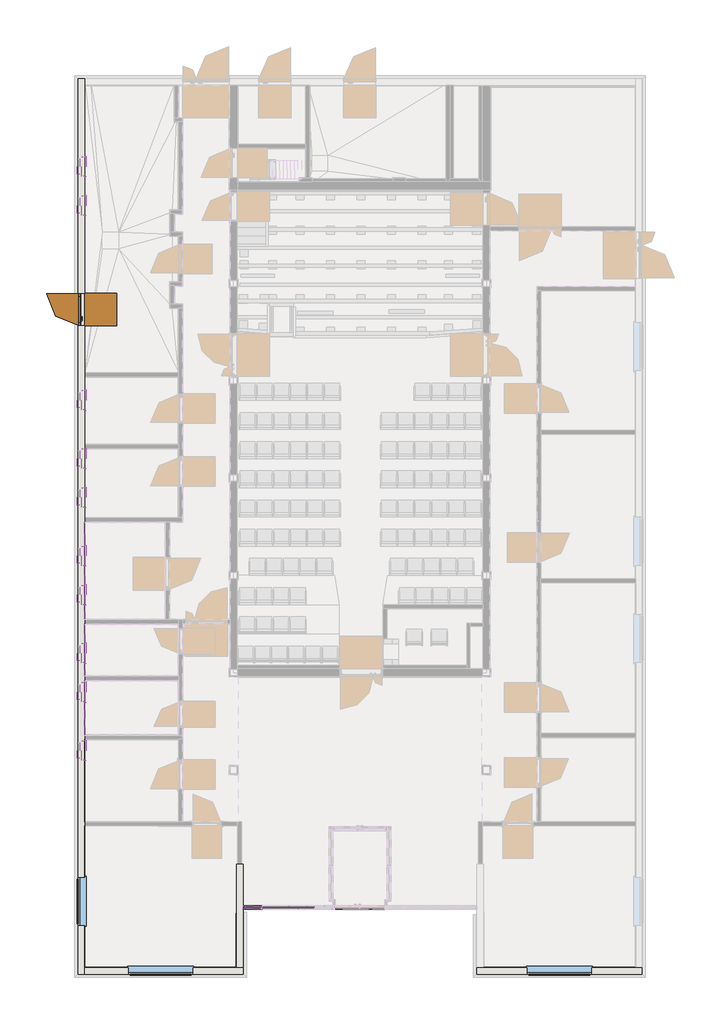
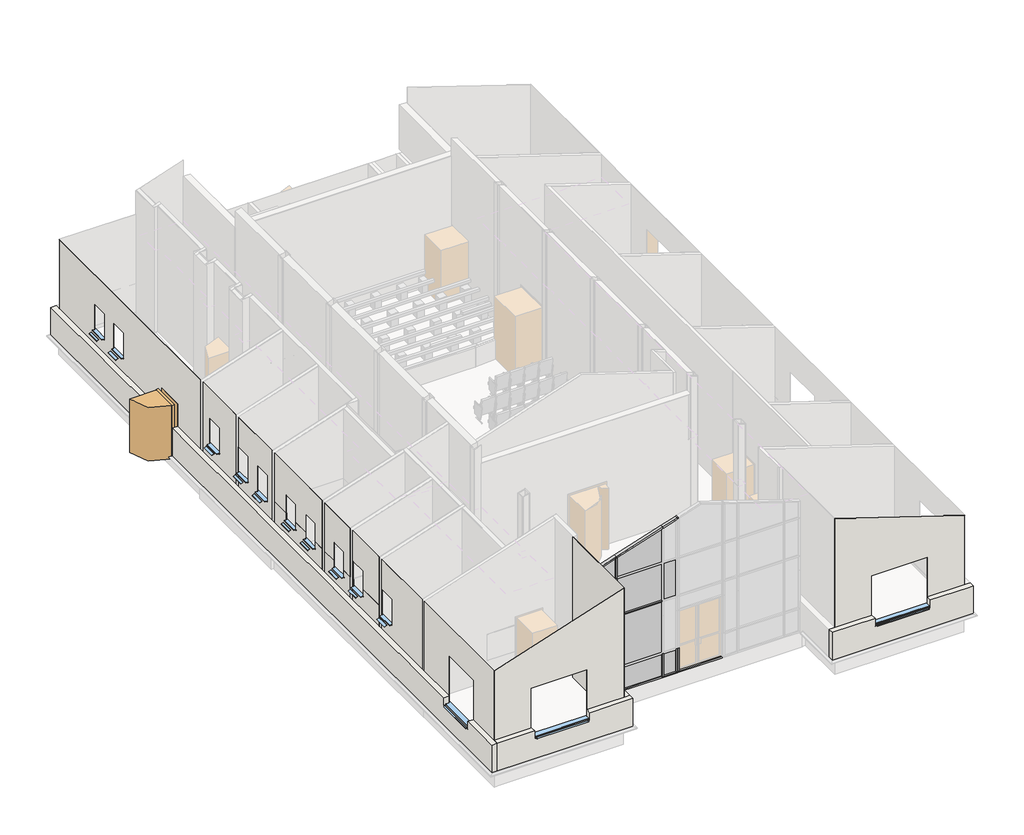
# One storey, part 1 of 12: 26 members, 26 windows, 22 walls, 10 plates, 1 door.
"""IFC4 building model written with IfcOpenShell, lengths in millimetres."""

from ifc_helpers import new_model, si_unit, frame, origin, place, context, project, spatial, polyline, outline, extrude, faceted_brep, transform, mapped, element, save
from components import door_b13809c9, member_8805ff32, member_8b1d7da7, member_3852d6f5, member_90e372af, member_bf5daf80, member_8b32100e, member_849f455b, member_9f80fade, member_032df59e, member_b2f30559, member_20a74649, member_61a6de6b, member_2769d897, member_3330f06f, member_29c79f2a, member_cc15da06, member_ada26568, member_79c3f76f, member_659f706c, member_5ccecf80, plate_3df24eb0, plate_244f3467, plate_40863914, plate_20cddcc4, plate_b7f66d03, plate_f58014f5, plate_ab8c2a42, plate_59a72077, plate_1786935c, plate_a43562b1, window_8f4e7b66, window_3b6728a6, window_ea214aab, window_dc4ac935, window_c86a886d, window_1c98182c

model = new_model("IFC4")

# Units and contexts
model_context = context("Model", 3, world=origin())
ifc_project = project(units=[si_unit("LENGTHUNIT", "METRE", prefix="MILLI")], contexts=[model_context])

# Site, building, storey
site = spatial("IfcSite", under=ifc_project)
building = spatial("IfcBuilding", under=site)
storey = spatial("IfcBuildingStorey", under=building, Name="Этаж 01", Elevation=0.0)

# Door
placement = place(None, origin())
door_shape = door_b13809c9(model_context)
element("IfcDoor", 1, ObjectType="Дверь_Стальная_Наружная_Однопольная_ГОСТ_31173-2016 : 1010 х 2070(h)_Л_Обычная_с Порогом", at=placement, inside=storey, context=model_context, shape_type="MappedRepresentation", body=[
    mapped(door_shape, transform((-200.0, 20194.9974866, 0.0), x_axis=(0.0, 1.0, 0.0), y_axis=(-1.0, 0.0, 0.0), z_axis=(0.0, 0.0, 1.0))),
])

# Members
member_shape = member_8805ff32(model_context)
element("IfcMember", 2, ObjectType="Прямоугольный импост : 50х120 мм", at=placement, inside=storey, context=model_context, shape_type="MappedRepresentation", body=[
    mapped(member_shape, transform((4850.0, 1760.3517467, 0.0), x_axis=(0.0, 0.0, -1.0), y_axis=(0.0, -1.0, 0.0), z_axis=(-1.0, 0.0, 0.0))),
])
member_2_shape = member_8b1d7da7(model_context)
element("IfcMember", 3, ObjectType="Прямоугольный импост : 50х120 мм", at=placement, inside=storey, context=model_context, shape_type="MappedRepresentation", body=[
    mapped(member_2_shape, transform((5360.0175397, 1760.3517467, 5206.9224188), x_axis=(-0.3090169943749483, 0.0, 0.9510565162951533), y_axis=(0.0, -1.0, 0.0), z_axis=(0.9510565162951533, 0.0, 0.3090169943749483))),
])
member_3_shape = member_3852d6f5(model_context)
element("IfcMember", 4, ObjectType="Прямоугольный импост : 50х120 мм", at=placement, inside=storey, context=model_context, shape_type="MappedRepresentation", body=[
    mapped(member_3_shape, transform((7040.0175397, 1760.3517467, 5752.7875085), x_axis=(-0.30901699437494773, 0.0, 0.9510565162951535), y_axis=(0.0, -1.0, 0.0), z_axis=(0.9510565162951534, 0.0, 0.3090169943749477))),
])
member_4_shape = member_90e372af(model_context)
element("IfcMember", 5, ObjectType="Прямоугольный импост : 50х120 мм", at=placement, inside=storey, context=model_context, shape_type="MappedRepresentation", body=[
    mapped(member_4_shape, transform((5335.0175397, 1760.3517467, 2925.0), x_axis=(0.0, 0.0, 1.0), y_axis=(0.0, -1.0, 0.0), z_axis=(1.0, 0.0, 0.0))),
])
element("IfcMember", 6, ObjectType="Прямоугольный импост : 50х120 мм", at=placement, inside=storey, context=model_context, shape_type="MappedRepresentation", body=[
    mapped(member_4_shape, transform((5335.0175397, 1760.3517467, 4375.0), x_axis=(0.0, 0.0, 1.0), y_axis=(0.0, -1.0, 0.0), z_axis=(1.0, 0.0, 0.0))),
])
element("IfcMember", 7, ObjectType="Прямоугольный импост : 50х120 мм", at=placement, inside=storey, context=model_context, shape_type="MappedRepresentation", body=[
    mapped(member_4_shape, transform((5335.0175397, 1760.3517467, 925.0), x_axis=(0.0, 0.0, 1.0), y_axis=(0.0, -1.0, 0.0), z_axis=(1.0, 0.0, 0.0))),
])
member_5_shape = member_bf5daf80(model_context)
element("IfcMember", 8, ObjectType="Прямоугольный импост : 50х120 мм", at=placement, inside=storey, context=model_context, shape_type="MappedRepresentation", body=[
    mapped(member_5_shape, transform((5360.0175397, 1760.3517467, 4375.0), x_axis=(1.0, 0.0, 0.0), y_axis=(0.0, -1.0, 0.0), z_axis=(0.0, 0.0, -1.0))),
])
member_6_shape = member_8b32100e(model_context)
element("IfcMember", 9, ObjectType="Прямоугольный импост : 50х120 мм", at=placement, inside=storey, context=model_context, shape_type="MappedRepresentation", body=[
    mapped(member_6_shape, transform((4800.0, 1760.3517467, 5024.9616899), x_axis=(-1.0, 0.0, 0.0), y_axis=(0.0, -1.0, 0.0), z_axis=(0.0, 0.0, 1.0))),
])
member_7_shape = member_849f455b(model_context)
element("IfcMember", 10, ObjectType="Прямоугольный импост : 50х120 мм", at=placement, inside=storey, context=model_context, shape_type="MappedRepresentation", body=[
    mapped(member_7_shape, transform((5360.0175397, 1760.3517467, 2925.0), x_axis=(1.0, 0.0, 0.0), y_axis=(0.0, -1.0, 0.0), z_axis=(0.0, 0.0, -1.0))),
])
member_8_shape = member_9f80fade(model_context)
element("IfcMember", 11, ObjectType="Прямоугольный импост : 50х120 мм", at=placement, inside=storey, context=model_context, shape_type="MappedRepresentation", body=[
    mapped(member_8_shape, transform((4800.0, 1760.3517467, 4375.0), x_axis=(-1.0, 0.0, 0.0), y_axis=(0.0, -1.0, 0.0), z_axis=(0.0, 0.0, 1.0))),
])
member_9_shape = member_032df59e(model_context)
element("IfcMember", 12, ObjectType="Прямоугольный импост : 50х120 мм", at=placement, inside=storey, context=model_context, shape_type="MappedRepresentation", body=[
    mapped(member_9_shape, transform((5360.0175397, 1760.3517467, 0.0), x_axis=(0.0, 0.0, -1.0), y_axis=(0.0, -1.0, 0.0), z_axis=(-1.0, 0.0, 0.0))),
])
member_10_shape = member_b2f30559(model_context)
element("IfcMember", 13, ObjectType="Прямоугольный импост : 50х120 мм", at=placement, inside=storey, context=model_context, shape_type="MappedRepresentation", body=[
    mapped(member_10_shape, transform((7065.0175397, 1760.3517467, 0.0), x_axis=(0.0, 0.0, -1.0), y_axis=(0.0, -1.0, 0.0), z_axis=(-1.0, 0.0, 0.0))),
])
member_11_shape = member_20a74649(model_context)
element("IfcMember", 14, ObjectType="Прямоугольный импост : 50х120 мм", at=placement, inside=storey, context=model_context, shape_type="MappedRepresentation", body=[
    mapped(member_11_shape, transform((7550.0175397, 1760.3517467, 5918.4965536), x_axis=(-0.30901699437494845, 0.0, 0.9510565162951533), y_axis=(0.0, -1.0, 0.0), z_axis=(0.9510565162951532, 0.0, 0.3090169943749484))),
])
member_12_shape = member_61a6de6b(model_context)
element("IfcMember", 15, ObjectType="Прямоугольный импост : 50х100 мм", at=placement, inside=storey, context=model_context, shape_type="MappedRepresentation", body=[
    mapped(member_12_shape, transform((7550.0175397, 1760.3517467, 0.0), x_axis=(0.0, 0.0, -1.0), y_axis=(0.0, -1.0, 0.0), z_axis=(-1.0, 0.0, 0.0))),
])
member_13_shape = member_2769d897(model_context)
element("IfcMember", 16, ObjectType="Прямоугольный импост : 50х120 мм", at=placement, inside=storey, context=model_context, shape_type="MappedRepresentation", body=[
    mapped(member_13_shape, transform((7600.0175397, 1760.3517467, 0.0), x_axis=(0.0, 0.0, -1.0), y_axis=(0.0, -1.0, 0.0), z_axis=(-1.0, 0.0, 0.0))),
])
member_14_shape = member_3330f06f(model_context)
element("IfcMember", 17, ObjectType="Прямоугольный импост : 50х120 мм", at=placement, inside=storey, context=model_context, shape_type="MappedRepresentation", body=[
    mapped(member_14_shape, transform((7015.0175397, 1760.3517467, 2925.0), x_axis=(0.0, 0.0, 1.0), y_axis=(0.0, -1.0, 0.0), z_axis=(1.0, 0.0, 0.0))),
])
member_15_shape = member_29c79f2a(model_context)
element("IfcMember", 18, ObjectType="Прямоугольный импост : 50х120 мм", at=placement, inside=storey, context=model_context, shape_type="MappedRepresentation", body=[
    mapped(member_15_shape, transform((5360.0175397, 1760.3517467, 50.0), x_axis=(1.0, 0.0, 0.0), y_axis=(0.0, -1.0, 0.0), z_axis=(0.0, 0.0, -1.0))),
])
element("IfcMember", 19, ObjectType="Прямоугольный импост : 50х120 мм", at=placement, inside=storey, context=model_context, shape_type="MappedRepresentation", body=[
    mapped(member_15_shape, transform((7550.0175397, 1760.3517467, 50.0), x_axis=(1.0, 0.0, 0.0), y_axis=(0.0, -1.0, 0.0), z_axis=(0.0, 0.0, -1.0))),
])
element("IfcMember", 20, ObjectType="Прямоугольный импост : 50х120 мм", at=placement, inside=storey, context=model_context, shape_type="MappedRepresentation", body=[
    mapped(member_15_shape, transform((7600.0175397, 1760.3517467, 50.0), x_axis=(1.0, 0.0, 0.0), y_axis=(0.0, -1.0, 0.0), z_axis=(0.0, 0.0, -1.0))),
])
member_16_shape = member_cc15da06(model_context)
element("IfcMember", 21, ObjectType="Прямоугольный импост : 50х120 мм", at=placement, inside=storey, context=model_context, shape_type="MappedRepresentation", body=[
    mapped(member_16_shape, transform((7040.0175397, 1760.3517467, 0.0), x_axis=(1.0, 0.0, 0.0), y_axis=(0.0, -1.0, 0.0), z_axis=(0.0, 0.0, -1.0))),
])
member_17_shape = member_ada26568(model_context)
element("IfcMember", 22, ObjectType="Прямоугольный импост : 50х120 мм", at=placement, inside=storey, context=model_context, shape_type="MappedRepresentation", body=[
    mapped(member_17_shape, transform((4800.0, 1760.3517467, 925.0), x_axis=(-1.0, 0.0, 0.0), y_axis=(0.0, -1.0, 0.0), z_axis=(0.0, 0.0, 1.0))),
])
element("IfcMember", 23, ObjectType="Прямоугольный импост : 50х120 мм", at=placement, inside=storey, context=model_context, shape_type="MappedRepresentation", body=[
    mapped(member_7_shape, transform((5360.0175397, 1760.3517467, 925.0), x_axis=(1.0, 0.0, 0.0), y_axis=(0.0, -1.0, 0.0), z_axis=(0.0, 0.0, -1.0))),
])
member_18_shape = member_79c3f76f(model_context)
element("IfcMember", 24, ObjectType="Прямоугольный импост : 50х120 мм", at=placement, inside=storey, context=model_context, shape_type="MappedRepresentation", body=[
    mapped(member_18_shape, transform((5360.0175397, 1760.3517467, 2375.0), x_axis=(1.0, 0.0, 0.0), y_axis=(0.0, -1.0, 0.0), z_axis=(0.0, 0.0, -1.0))),
])
member_19_shape = member_659f706c(model_context)
element("IfcMember", 25, ObjectType="Прямоугольный импост : 50х120 мм", at=placement, inside=storey, context=model_context, shape_type="MappedRepresentation", body=[
    mapped(member_19_shape, transform((4800.0, 1760.3517467, 2925.0), x_axis=(-1.0, 0.0, 0.0), y_axis=(0.0, -1.0, 0.0), z_axis=(0.0, 0.0, 1.0))),
])
element("IfcMember", 26, ObjectType="Прямоугольный импост : 50х120 мм", at=placement, inside=storey, context=model_context, shape_type="MappedRepresentation", body=[
    mapped(member_8_shape, transform((4800.0, 1760.3517467, 2375.0), x_axis=(-1.0, 0.0, 0.0), y_axis=(0.0, -1.0, 0.0), z_axis=(0.0, 0.0, 1.0))),
])
member_20_shape = member_5ccecf80(model_context)
element("IfcMember", 27, ObjectType="Прямоугольный импост : 50х120 мм", at=placement, inside=storey, context=model_context, shape_type="MappedRepresentation", body=[
    mapped(member_20_shape, transform((7600.0175397, 1760.3517467, 5934.7425384), x_axis=(-0.30901699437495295, 0.0, 0.9510565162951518), y_axis=(0.0, -1.0, 0.0), z_axis=(0.9510565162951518, 0.0, 0.30901699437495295))),
])

# Plates
plate_shape = plate_3df24eb0(model_context)
element("IfcPlate", 28, ObjectType="Системная панель : ADSK_Cтеклопакет_25", at=placement, inside=storey, context=model_context, shape_type="MappedRepresentation", body=[
    mapped(plate_shape, transform((5092.5087699, 1760.3517467, 50.0), x_axis=(1.0, 0.0, 0.0), y_axis=(0.0, 1.0, 0.0), z_axis=(0.0, 0.0, 1.0))),
])
plate_2_shape = plate_244f3467(model_context)
element("IfcPlate", 29, ObjectType="Системная панель : ADSK_Cтеклопакет_25 мм", at=placement, inside=storey, context=model_context, shape_type="MappedRepresentation", body=[
    mapped(plate_2_shape, transform((5092.5087699, 1760.3517467, 2950.0), x_axis=(1.0, 0.0, 0.0), y_axis=(0.0, 1.0, 0.0), z_axis=(0.0, 0.0, 1.0))),
])
plate_3_shape = plate_40863914(model_context)
element("IfcPlate", 30, ObjectType="Системная панель : ADSK_Cтеклопакет_25 мм", at=placement, inside=storey, context=model_context, shape_type="MappedRepresentation", body=[
    mapped(plate_3_shape, transform((5092.5087699, 1760.3517467, 4400.0), x_axis=(1.0, 0.0, 0.0), y_axis=(0.0, 1.0, 0.0), z_axis=(0.0, 0.0, 1.0))),
])
plate_4_shape = plate_20cddcc4(model_context)
element("IfcPlate", 31, ObjectType="Системная панель : ADSK_Cтеклопакет_25 мм", at=placement, inside=storey, context=model_context, shape_type="MappedRepresentation", body=[
    mapped(plate_4_shape, transform((5092.5087699, 1760.3517467, 950.0), x_axis=(1.0, 0.0, 0.0), y_axis=(0.0, 1.0, 0.0), z_axis=(0.0, 0.0, 1.0))),
])
plate_5_shape = plate_b7f66d03(model_context)
element("IfcPlate", 32, ObjectType="Системная панель : ADSK_Cтеклопакет_25 мм", at=placement, inside=storey, context=model_context, shape_type="MappedRepresentation", body=[
    mapped(plate_5_shape, transform((6200.0175397, 1760.3517467, 2950.0), x_axis=(1.0, 0.0, 0.0), y_axis=(0.0, 1.0, 0.0), z_axis=(0.0, 0.0, 1.0))),
])
plate_6_shape = plate_f58014f5(model_context)
element("IfcPlate", 33, ObjectType="Системная панель : ADSK_Cтеклопакет_25 мм", at=placement, inside=storey, context=model_context, shape_type="MappedRepresentation", body=[
    mapped(plate_6_shape, transform((7295.0175397, 1760.3517467, 2950.0), x_axis=(1.0, 0.0, 0.0), y_axis=(0.0, 1.0, 0.0), z_axis=(0.0, 0.0, 1.0))),
])
plate_7_shape = plate_ab8c2a42(model_context)
element("IfcPlate", 34, ObjectType="Системная панель : ADSK_Cтеклопакет_25 мм", at=placement, inside=storey, context=model_context, shape_type="MappedRepresentation", body=[
    mapped(plate_7_shape, transform((6200.0175397, 1760.3517467, 950.0), x_axis=(1.0, 0.0, 0.0), y_axis=(0.0, 1.0, 0.0), z_axis=(0.0, 0.0, 1.0))),
])
plate_8_shape = plate_59a72077(model_context)
element("IfcPlate", 35, ObjectType="Системная панель : ADSK_Cтеклопакет_25 мм", at=placement, inside=storey, context=model_context, shape_type="MappedRepresentation", body=[
    mapped(plate_8_shape, transform((6200.0175397, 1760.3517467, 4400.0), x_axis=(1.0, 0.0, 0.0), y_axis=(0.0, 1.0, 0.0), z_axis=(0.0, 0.0, 1.0))),
])
plate_9_shape = plate_1786935c(model_context)
element("IfcPlate", 36, ObjectType="Системная панель : ADSK_Cтеклопакет_25", at=placement, inside=storey, context=model_context, shape_type="MappedRepresentation", body=[
    mapped(plate_9_shape, transform((6200.0175397, 1760.3517467, 50.0), x_axis=(1.0, 0.0, 0.0), y_axis=(0.0, 1.0, 0.0), z_axis=(0.0, 0.0, 1.0))),
])
plate_10_shape = plate_a43562b1(model_context)
element("IfcPlate", 37, ObjectType="Системная панель : ADSK_Cтеклопакет_25", at=placement, inside=storey, context=model_context, shape_type="MappedRepresentation", body=[
    mapped(plate_10_shape, transform((7295.0175397, 1760.3517467, 50.0), x_axis=(1.0, 0.0, 0.0), y_axis=(0.0, 1.0, 0.0), z_axis=(0.0, 0.0, 1.0))),
])

# Walls
element("IfcWall", 38, ObjectType="ADSK_Наружная_Сэндвич_Утеплитель_200 RAL 8017", at=placement, inside=storey, context=model_context, shape_type="Brep", body=[
    faceted_brep([(4800.0, -100.0, 100.0), (4600.0, -100.0, 100.0), (-100.0, -100.0, 100.0), (-100.0, -100.0, 1200.0), (1250.0015614, -100.0, 1200.0), (1250.0015614, -100.0, 900.0), (3250.0015614, -100.0, 900.0), (3250.0015614, -100.0, 1200.0), (4600.0, -100.0, 1200.0), (4800.0, -100.0, 1200.0), (-100.0, -300.0, 100.0), (4800.0, -300.0, 100.0), (4800.0, -300.0, 1200.0), (3250.0015614, -300.0, 1200.0), (3250.0015614, -300.0, 900.0), (3185.0015614, -300.0, 900.0), (1315.0015614, -300.0, 900.0), (1250.0015614, -300.0, 900.0), (1250.0015614, -300.0, 1200.0), (-100.0, -300.0, 1200.0)], [[[0, 1, 2, 3, 4, 5, 6, 7, 8, 9]], [[10, 11, 12, 13, 14, 15, 16, 17, 18, 19]], [[2, 1, 0, 11, 10]], [[3, 2, 10, 19]], [[3, 19, 18, 4]], [[12, 9, 8, 7, 13]], [[0, 9, 12, 11]], [[17, 5, 4, 18]], [[5, 17, 16, 15, 14, 6]], [[6, 14, 13, 7]]]),
])
element("IfcWall", 39, ObjectType="ADSK_Наружная_Сэндвич_Утеплитель_200 RAL 8017", at=placement, inside=storey, context=model_context, shape_type="Brep", body=[
    faceted_brep([(-100.0, -300.0, 1200.0), (-100.0, -300.0, 100.0), (-100.0, -100.0, 100.0), (-100.0, -99.0, 100.0), (-100.0, 4273.9957095, 100.0), (-100.0, 4274.9957095, 100.0), (-100.0, 4399.9957095, 100.0), (-100.0, 4400.9957095, 100.0), (-100.0, 6929.8698515, 100.0), (-100.0, 6939.8698515, 100.0), (-100.0, 7059.9969968, 100.0), (-100.0, 7071.8698515, 100.0), (-100.0, 7079.8698515, 100.0), (-100.0, 8770.0, 100.0), (-100.0, 8890.0, 100.0), (-100.0, 8902.0, 100.0), (-100.0, 8910.0, 100.0), (-100.0, 10498.0, 100.0), (-100.0, 10510.0, 100.0), (-100.0, 10630.0, 100.0), (-100.0, 10642.0, 100.0), (-100.0, 10650.0, 100.0), (-100.0, 13630.0024506, 100.0), (-100.0, 13638.0024506, 100.0), (-100.0, 13650.0024506, 100.0), (-100.0, 13770.0024506, 100.0), (-100.0, 13780.0024506, 100.0), (-100.0, 15909.9976367, 100.0), (-100.0, 16029.9976367, 100.0), (-100.0, 16039.9976367, 100.0), (-100.0, 18110.0, 100.0), (-100.0, 18120.0, 100.0), (-100.0, 18240.0, 100.0), (-100.0, 18250.0, 100.0), (-100.0, 19689.9974866, 100.0), (-100.0, 19689.9974866, 1200.0), (-100.0, 2700.0, 1200.0), (-100.0, 2700.0, 900.0), (-100.0, 1200.0, 900.0), (-100.0, 1200.0, 1200.0), (-300.0, -300.0, 100.0), (-300.0, -300.0, 1200.0), (-300.0, 1200.0, 1200.0), (-300.0, 1200.0, 900.0), (-300.0, 1265.0, 900.0), (-300.0, 2635.0, 900.0), (-300.0, 2700.0, 900.0), (-300.0, 2700.0, 1200.0), (-300.0, 19689.9974866, 1200.0), (-300.0, 19689.9974866, 100.0)], [[[0, 1, 2, 3, 4, 5, 6, 7, 8, 9, 10, 11, 12, 13, 14, 15, 16, 17, 18, 19, 20, 21, 22, 23, 24, 25, 26, 27, 28, 29, 30, 31, 32, 33, 34, 35, 36, 37, 38, 39]], [[40, 41, 42, 43, 44, 45, 46, 47, 48, 49]], [[1, 40, 49, 34, 33, 32, 31, 30, 29, 28, 27, 26, 25, 24, 23, 22, 21, 20, 19, 18, 17, 16, 15, 14, 13, 12, 11, 10, 9, 8, 7, 6, 5, 4, 3, 2]], [[41, 0, 39, 42]], [[35, 48, 47, 36]], [[1, 0, 41, 40]], [[35, 34, 49, 48]], [[38, 43, 42, 39]], [[43, 38, 37, 46, 45, 44]], [[46, 37, 36, 47]]]),
    faceted_brep([(-100.0, 27300.0, 100.0), (-100.0, 27300.0, 1200.0), (-100.0, 27100.0, 1200.0), (-100.0, 20699.9974866, 1200.0), (-100.0, 20699.9974866, 100.0), (-100.0, 27100.0, 100.0), (-300.0, 27300.0, 1200.0), (-300.0, 27300.0, 100.0), (-300.0, 20699.9974866, 100.0), (-300.0, 20699.9974866, 1200.0), (-300.0, 27100.0, 1200.0)], [[[0, 1, 2, 3, 4, 5]], [[6, 7, 8, 9, 10]], [[7, 0, 5, 4, 8]], [[1, 0, 7, 6]], [[1, 6, 10, 9, 3, 2]], [[4, 3, 9, 8]]]),
])
element("IfcWall", 40, ObjectType="ADSK_Наружная_Сэндвич_Утеплитель_200 RAL 8017", at=placement, inside=storey, context=model_context, shape_type="Brep", body=[
    faceted_brep([(17100.0, -100.0, 100.0), (16900.0, -100.0, 100.0), (12201.0, -100.0, 100.0), (12200.0, -100.0, 100.0), (12000.0, -100.0, 100.0), (12000.0, -100.0, 1200.0), (12200.0, -100.0, 1200.0), (13550.0046143, -100.0, 1200.0), (13550.0046143, -100.0, 900.0), (15550.0046143, -100.0, 900.0), (15550.0046143, -100.0, 1200.0), (16900.0, -100.0, 1200.0), (17100.0, -100.0, 1200.0), (12000.0, -300.0, 100.0), (17100.0, -300.0, 100.0), (17100.0, -300.0, 1200.0), (16900.0, -300.0, 1200.0), (15550.0046143, -300.0, 1200.0), (15550.0046143, -300.0, 900.0), (15485.0046143, -300.0, 900.0), (13615.0046143, -300.0, 900.0), (13550.0046143, -300.0, 900.0), (13550.0046143, -300.0, 1200.0), (12000.0, -300.0, 1200.0)], [[[0, 1, 2, 3, 4, 5, 6, 7, 8, 9, 10, 11, 12]], [[13, 14, 15, 16, 17, 18, 19, 20, 21, 22, 23]], [[4, 3, 2, 1, 0, 14, 13]], [[15, 12, 11, 10, 17, 16]], [[5, 23, 22, 7, 6]], [[0, 12, 15, 14]], [[21, 8, 7, 22]], [[8, 21, 20, 19, 18, 9]], [[9, 18, 17, 10]], [[5, 4, 13, 23]]]),
])
element("IfcWall", 41, ObjectType="ADSK_Наружная_Сэндвич_Утеплитель_200 RAL 8017", at=placement, inside=storey, context=model_context, shape_type="Brep", body=[
    faceted_brep([(4800.0, -100.0, 100.0), (4800.0, 1585.3517467, 100.0), (4800.0, 1585.3517467, -20.0), (4800.0, 3100.5, -20.0), (4800.0, 3100.5, 1200.0), (4800.0, -100.0, 1200.0), (4600.0, -100.0, 100.0), (4600.0, -100.0, 1200.0), (4600.0, 3100.5, 1200.0), (4600.0, 3100.5, -20.0), (4600.0, 1585.3517467, -20.0), (4600.0, 1585.3517467, 100.0), (4600.0, -99.0, 100.0), (4705.0, 1585.3517467, 100.0), (4705.0, 1585.3517467, -20.0)], [[[0, 1, 2, 3, 4, 5]], [[6, 7, 8, 9, 10, 11, 12]], [[1, 0, 6, 12, 11, 13]], [[4, 3, 9, 8]], [[5, 4, 8, 7]], [[2, 1, 13, 11, 10, 14]], [[3, 2, 14, 10, 9]], [[0, 5, 7, 6]]]),
])
element("IfcWall", 42, ObjectType="ADSK_Внутренняя_Кирпич_120", at=placement, inside=storey, context=model_context, shape_type="SweptSolid", body=[
    extrude(outline(polyline([(100.0, 4585.0), (100.0, -85.0), (-25.0, -85.0), (-25.0, 45.0), (-20.0, 45.0), (-20.0, 4585.0), (100.0, 4585.0)])), frame((0.0, -205.0, 0.0), z_axis=(0.0, 1.0, 0.0), x_axis=(0.0, 0.0, 1.0)), (0.0, 0.0, 1.0), 120.0),
])
element("IfcWall", 43, ObjectType="ADSK_Внутренняя_Кирпич_120", at=placement, inside=storey, context=model_context, shape_type="Brep", body=[
    faceted_brep([(4705.0, 1585.3517467, 100.0), (4705.0, -205.0, 100.0), (4705.0, -205.0, -25.0), (4705.0, 45.0, -25.0), (4705.0, 45.0, -20.0), (4705.0, 1585.3517467, -20.0), (4585.0, -205.0, 100.0), (4585.0, -85.0, 100.0), (4585.0, 1585.3517467, 100.0), (4585.0, 1585.3517467, -20.0), (4585.0, 45.0, -20.0), (4585.0, 45.0, -25.0), (4585.0, -205.0, -25.0), (4585.0, -205.0, -20.0), (4599.0, 1585.3517467, 100.0), (4600.0, 1585.3517467, 100.0), (4687.5, 1585.3517467, -20.0), (4600.0, 1585.3517467, -20.0)], [[[0, 1, 2, 3, 4, 5]], [[6, 7, 8, 9, 10, 11, 12, 13]], [[2, 12, 11, 3]], [[8, 14, 15, 0, 5, 16, 17, 9]], [[1, 0, 15, 14, 8, 7, 6]], [[2, 1, 6, 13, 12]], [[4, 10, 9, 17, 16, 5]], [[10, 4, 3, 11]]]),
])
element("IfcWall", 44, ObjectType="ADSK_Внутренняя_Кирпич_120", at=placement, inside=storey, context=model_context, shape_type="SweptSolid", body=[
    extrude(outline(polyline([(17005.0, -205.0), (12045.0, -205.0), (12045.0, -85.0), (17005.0, -85.0), (17005.0, -205.0)])), frame((0.0, 0.0, -25.0), z_axis=(0.0, 0.0, 1.0), x_axis=(1.0, 0.0, 0.0)), (0.0, 0.0, 1.0), 125.0),
])
element("IfcWall", 45, ObjectType="ADSK_Внутренняя_Кирпич_120", at=placement, inside=storey, context=model_context, shape_type="Brep", body=[
    faceted_brep([(-205.0, 27205.0, -25.0), (-205.0, -205.0, -25.0), (-205.0, -205.0, 100.0), (-205.0, 19689.9974866, 100.0), (-205.0, 19689.9974866, 0.0), (-205.0, 20699.9974866, 0.0), (-205.0, 20699.9974866, 100.0), (-205.0, 27205.0, 100.0), (-85.0, -205.0, -25.0), (-85.0, -85.0, -25.0), (-85.0, 18180.0, -25.0), (-85.0, 18240.0, -25.0), (-85.0, 27205.0, -25.0), (-85.0, 27205.0, 100.0), (-85.0, 20699.9974866, 100.0), (-85.0, 20699.9974866, 0.0), (-85.0, 19689.9974866, 0.0), (-85.0, 19689.9974866, 100.0), (-85.0, 18240.0, 100.0), (-85.0, 18120.0, 100.0), (-85.0, 16029.9976367, 100.0), (-85.0, 15909.9976367, 100.0), (-85.0, 13780.0024506, 100.0), (-85.0, 13770.0024506, 100.0), (-85.0, 13650.0024506, 100.0), (-85.0, 13638.0024506, 100.0), (-85.0, 13630.0024506, 100.0), (-85.0, 10650.0, 100.0), (-85.0, 10642.0, 100.0), (-85.0, 10630.0, 100.0), (-85.0, 10510.0, 100.0), (-85.0, 10498.0, 100.0), (-85.0, 8910.0, 100.0), (-85.0, 8902.0, 100.0), (-85.0, 8890.0, 100.0), (-85.0, 8770.0, 100.0), (-85.0, 7079.8698515, 100.0), (-85.0, 7071.8698515, 100.0), (-85.0, 7059.9969968, 100.0), (-85.0, 6939.9969968, 100.0), (-85.0, 6929.8698515, 100.0), (-85.0, 4400.9957095, 100.0), (-85.0, 4399.9957095, 100.0), (-85.0, 4274.9957095, 100.0), (-85.0, 4273.9957095, 100.0), (-85.0, -85.0, 100.0), (-85.0, -205.0, 100.0)], [[[0, 1, 2, 3, 4, 5, 6, 7]], [[8, 9, 10, 11, 12, 13, 14, 15, 16, 17, 18, 19, 20, 21, 22, 23, 24, 25, 26, 27, 28, 29, 30, 31, 32, 33, 34, 35, 36, 37, 38, 39, 40, 41, 42, 43, 44, 45, 46]], [[1, 0, 12, 11, 10, 9, 8]], [[13, 7, 6, 14]], [[2, 46, 45, 44, 43, 42, 41, 40, 39, 38, 37, 36, 35, 34, 33, 32, 31, 30, 29, 28, 27, 26, 25, 24, 23, 22, 21, 20, 19, 18, 17, 3]], [[0, 7, 13, 12]], [[2, 1, 8, 46]], [[4, 16, 15, 5]], [[16, 4, 3, 17]], [[5, 15, 14, 6]]]),
])
element("IfcWall", 46, ObjectType="Отделка - Заводское покрытие сэндвич-панелей", at=placement, inside=storey, context=model_context, shape_type="Brep", body=[
    faceted_brep([(-100.0, 15909.9976367, 100.0), (-100.0, 13780.0024506, 100.0), (-100.0, 13780.0024506, 3848.1164919), (-100.0, 15909.9976367, 3848.1164919), (-100.0, 14700.0023632, 2700.0), (-100.0, 14100.0023632, 2700.0), (-100.0, 14100.0023632, 1700.0), (-100.0, 14700.0023632, 1700.0), (-100.0, 15899.9976368, 2700.0), (-100.0, 15299.9976368, 2700.0), (-100.0, 15299.9976368, 1700.0), (-100.0, 15899.9976368, 1700.0), (-99.0, 13780.0024506, 100.0), (-99.0, 15909.9976367, 100.0), (-99.0, 15909.9976367, 3848.4414193), (-99.0, 13780.0024506, 3848.4414193), (-99.0, 14100.0023632, 2700.0), (-99.0, 14700.0023632, 2700.0), (-99.0, 14700.0023632, 1700.0), (-99.0, 14100.0023632, 1700.0), (-99.0, 15299.9976368, 2700.0), (-99.0, 15899.9976368, 2700.0), (-99.0, 15899.9976368, 1700.0), (-99.0, 15299.9976368, 1700.0)], [[[0, 1, 2, 3], [4, 5, 6, 7], [8, 9, 10, 11]], [[12, 13, 14, 15], [16, 17, 18, 19], [20, 21, 22, 23]], [[1, 0, 13, 12]], [[0, 3, 14, 13]], [[2, 1, 12, 15]], [[4, 17, 16, 5]], [[5, 16, 19, 6]], [[6, 19, 18, 7]], [[17, 4, 7, 18]], [[8, 21, 20, 9]], [[9, 20, 23, 10]], [[10, 23, 22, 11]], [[21, 8, 11, 22]], [[3, 2, 15, 14]]]),
])
element("IfcWall", 47, ObjectType="Отделка - Заводское покрытие сэндвич-панелей", at=placement, inside=storey, context=model_context, shape_type="Brep", body=[
    faceted_brep([(-100.0, 18110.0, 100.0), (-100.0, 16039.9976367, 100.0), (-100.0, 16039.9976367, 3848.1164919), (-100.0, 18110.0, 3848.1164919), (-100.0, 17700.0023632, 2700.0), (-100.0, 17100.0023632, 2700.0), (-100.0, 17100.0023632, 1700.0), (-100.0, 17700.0023632, 1700.0), (-99.0, 16039.9976367, 100.0), (-99.0, 18110.0, 100.0), (-99.0, 18110.0, 3848.4414193), (-99.0, 16039.9976367, 3848.4414193), (-99.0, 17100.0023632, 2700.0), (-99.0, 17700.0023632, 2700.0), (-99.0, 17700.0023632, 1700.0), (-99.0, 17100.0023632, 1700.0)], [[[0, 1, 2, 3], [4, 5, 6, 7]], [[8, 9, 10, 11], [12, 13, 14, 15]], [[1, 0, 9, 8]], [[3, 2, 11, 10]], [[4, 13, 12, 5]], [[5, 12, 15, 6]], [[6, 15, 14, 7]], [[13, 4, 7, 14]], [[2, 1, 8, 11]], [[0, 3, 10, 9]]]),
])
element("IfcWall", 48, ObjectType="Отделка - Заводское покрытие сэндвич-панелей", at=placement, inside=storey, context=model_context, shape_type="Brep", body=[
    faceted_brep([(-100.0, 18250.0, 3848.1164919), (-100.0, 27100.0, 3848.1164919), (-100.0, 27100.0, 1200.0), (-100.0, 27100.0, 100.0), (-100.0, 20699.9974866, 100.0), (-100.0, 20699.9974866, 1200.0), (-100.0, 20699.9974866, 2070.0), (-100.0, 19689.9974866, 2070.0), (-100.0, 19689.9974866, 1200.0), (-100.0, 19689.9974866, 100.0), (-100.0, 18250.0, 100.0), (-100.0, 23700.0, 2700.0), (-100.0, 23100.0, 2700.0), (-100.0, 23100.0, 1700.0), (-100.0, 23700.0, 1700.0), (-100.0, 24900.0, 2700.0), (-100.0, 24300.0, 2700.0), (-100.0, 24300.0, 1700.0), (-100.0, 24900.0, 1700.0), (-99.0, 27100.0, 3848.4414193), (-99.0, 18250.0, 3848.4414193), (-99.0, 18250.0, 100.0), (-99.0, 19689.9974866, 100.0), (-99.0, 19689.9974866, 2070.0), (-99.0, 20699.9974866, 2070.0), (-99.0, 20699.9974866, 100.0), (-99.0, 27099.0, 100.0), (-99.0, 27100.0, 100.0), (-99.0, 23100.0, 2700.0), (-99.0, 23700.0, 2700.0), (-99.0, 23700.0, 1700.0), (-99.0, 23100.0, 1700.0), (-99.0, 24300.0, 2700.0), (-99.0, 24900.0, 2700.0), (-99.0, 24900.0, 1700.0), (-99.0, 24300.0, 1700.0)], [[[0, 1, 2, 3, 4, 5, 6, 7, 8, 9, 10], [11, 12, 13, 14], [15, 16, 17, 18]], [[19, 20, 21, 22, 23, 24, 25, 26, 27], [28, 29, 30, 31], [32, 33, 34, 35]], [[3, 27, 26, 25, 4]], [[21, 10, 9, 22]], [[1, 0, 20, 19]], [[3, 2, 1, 19, 27]], [[0, 10, 21, 20]], [[11, 29, 28, 12]], [[12, 28, 31, 13]], [[13, 31, 30, 14]], [[29, 11, 14, 30]], [[15, 33, 32, 16]], [[16, 32, 35, 17]], [[17, 35, 34, 18]], [[33, 15, 18, 34]], [[6, 24, 23, 7]], [[7, 23, 22, 9, 8]], [[24, 6, 5, 4, 25]]]),
])
element("IfcWall", 49, ObjectType="Отделка - Заводское покрытие сэндвич-панелей", at=placement, inside=storey, context=model_context, shape_type="Brep", body=[
    faceted_brep([(-100.0, 10642.0, 3848.1164919), (-100.0, 13638.0024506, 3848.1164919), (-100.0, 13638.0024506, 2000.0), (-100.0, 12899.9976368, 2000.0), (-100.0, 12899.9976368, 2700.0), (-100.0, 12299.9976368, 2700.0), (-100.0, 12299.9976368, 2000.0), (-100.0, 11700.0023632, 2000.0), (-100.0, 11700.0023632, 2700.0), (-100.0, 11100.0023632, 2700.0), (-100.0, 11100.0023632, 2000.0), (-100.0, 10642.0, 2000.0), (-99.0, 13638.0024506, 3848.4414193), (-99.0, 10642.0, 3848.4414193), (-99.0, 10642.0, 2000.0), (-99.0, 11100.0023632, 2000.0), (-99.0, 11100.0023632, 2700.0), (-99.0, 11700.0023632, 2700.0), (-99.0, 11700.0023632, 2000.0), (-99.0, 12299.9976368, 2000.0), (-99.0, 12299.9976368, 2700.0), (-99.0, 12899.9976368, 2700.0), (-99.0, 12899.9976368, 2000.0), (-99.0, 13638.0024506, 2000.0)], [[[0, 1, 2, 3, 4, 5, 6, 7, 8, 9, 10, 11]], [[12, 13, 14, 15, 16, 17, 18, 19, 20, 21, 22, 23]], [[14, 11, 10, 15]], [[2, 23, 22, 3]], [[6, 19, 18, 7]], [[1, 0, 13, 12]], [[0, 11, 14, 13]], [[2, 1, 12, 23]], [[8, 17, 16, 9]], [[9, 16, 15, 10]], [[17, 8, 7, 18]], [[4, 21, 20, 5]], [[5, 20, 19, 6]], [[21, 4, 3, 22]]]),
])
element("IfcWall", 50, ObjectType="Отделка - Заводское покрытие сэндвич-панелей", at=placement, inside=storey, context=model_context, shape_type="Brep", body=[
    faceted_brep([(-100.0, 7071.8698515, 3850.0), (-100.0, 8758.0, 3850.0), (-100.0, 8758.0, 2000.0), (-100.0, 8700.0, 2000.0), (-100.0, 8700.0, 2700.0), (-100.0, 8100.0, 2700.0), (-100.0, 8100.0, 2000.0), (-100.0, 7071.8698515, 2000.0), (-100.0, 7071.8698515, 3848.1164919), (-99.0, 8758.0, 3850.0), (-99.0, 7071.8698515, 3850.0), (-99.0, 7071.8698515, 2000.0), (-99.0, 7072.1398515, 2000.0), (-99.0, 7073.1398515, 2000.0), (-99.0, 8100.0, 2000.0), (-99.0, 8100.0, 2700.0), (-99.0, 8700.0, 2700.0), (-99.0, 8700.0, 2000.0), (-99.0, 8757.0, 2000.0), (-99.0, 8758.0, 2000.0), (-99.0, 8758.0, 3848.4414193)], [[[0, 1, 2, 3, 4, 5, 6, 7, 8]], [[9, 10, 11, 12, 13, 14, 15, 16, 17, 18, 19, 20]], [[11, 7, 6, 14, 13, 12]], [[2, 19, 18, 17, 3]], [[1, 0, 10, 9]], [[7, 11, 10, 0, 8]], [[4, 16, 15, 5]], [[5, 15, 14, 6]], [[16, 4, 3, 17]], [[19, 2, 1, 9, 20]]]),
])
element("IfcWall", 51, ObjectType="Отделка - Заводское покрытие сэндвич-панелей", at=placement, inside=storey, context=model_context, shape_type="Brep", body=[
    faceted_brep([(-100.0, 8890.0, 3850.0), (-100.0, 10494.0, 3850.0), (-100.0, 10494.0, 2000.0), (-100.0, 9900.0, 2000.0), (-100.0, 9900.0, 2700.0), (-100.0, 9300.0, 2700.0), (-100.0, 9300.0, 2000.0), (-100.0, 8890.0, 2000.0), (-100.0, 8890.0, 3848.1164919), (-99.0, 10494.0, 3850.0), (-99.0, 8890.0, 3850.0), (-99.0, 8890.0, 2000.0), (-99.0, 8902.0, 2000.0), (-99.0, 8903.0, 2000.0), (-99.0, 9300.0, 2000.0), (-99.0, 9300.0, 2700.0), (-99.0, 9900.0, 2700.0), (-99.0, 9900.0, 2000.0), (-99.0, 10494.0, 2000.0)], [[[0, 1, 2, 3, 4, 5, 6, 7, 8]], [[9, 10, 11, 12, 13, 14, 15, 16, 17, 18]], [[2, 18, 17, 3]], [[11, 7, 6, 14, 13, 12]], [[1, 0, 10, 9]], [[2, 1, 9, 18]], [[0, 8, 7, 11, 10]], [[4, 16, 15, 5]], [[5, 15, 14, 6]], [[16, 4, 3, 17]]]),
])
element("IfcWall", 52, ObjectType="Отделка - Заводское покрытие сэндвич-панелей", at=placement, inside=storey, context=model_context, shape_type="Brep", body=[
    faceted_brep([(-100.0, 6939.9969968, 100.0), (-100.0, 4400.9957095, 100.0), (-100.0, 4400.9957095, 3848.1164919), (-100.0, 6939.9969968, 3848.1164919), (-100.0, 6900.0, 2700.0), (-100.0, 6300.0, 2700.0), (-100.0, 6300.0, 1700.0), (-100.0, 6900.0, 1700.0), (-99.0, 4400.9957095, 100.0), (-99.0, 6939.9969968, 100.0), (-99.0, 6939.9969968, 3848.4414193), (-99.0, 4400.9957095, 3848.4414193), (-99.0, 6300.0, 2700.0), (-99.0, 6900.0, 2700.0), (-99.0, 6900.0, 1700.0), (-99.0, 6300.0, 1700.0)], [[[0, 1, 2, 3], [4, 5, 6, 7]], [[8, 9, 10, 11], [12, 13, 14, 15]], [[1, 0, 9, 8]], [[2, 1, 8, 11]], [[3, 2, 11, 10]], [[0, 3, 10, 9]], [[4, 13, 12, 5]], [[5, 12, 15, 6]], [[6, 15, 14, 7]], [[13, 4, 7, 14]]]),
])
element("IfcWall", 53, ObjectType="Отделка - Заводское покрытие сэндвич-панелей", at=placement, inside=storey, context=model_context, shape_type="Brep", body=[
    faceted_brep([(-100.0, 4274.9957095, 100.0), (-100.0, -100.0, 100.0), (-100.0, -100.0, 1200.0), (-100.0, -100.0, 3848.1164919), (-100.0, 4274.9957095, 3848.1164919), (-100.0, 2700.0, 2700.0), (-100.0, 1200.0, 2700.0), (-100.0, 1200.0, 1200.0), (-100.0, 1200.0, 900.0), (-100.0, 2700.0, 900.0), (-100.0, 2700.0, 1200.0), (-99.0, -100.0, 100.0), (-99.0, 4274.9957095, 100.0), (-99.0, 4274.9957095, 3848.4414193), (-99.0, -100.0, 3848.4414193), (-99.0, 1200.0, 2700.0), (-99.0, 2700.0, 2700.0), (-99.0, 2700.0, 900.0), (-99.0, 1200.0, 900.0)], [[[0, 1, 2, 3, 4], [5, 6, 7, 8, 9, 10]], [[11, 12, 13, 14], [15, 16, 17, 18]], [[1, 0, 12, 11]], [[4, 3, 14, 13]], [[0, 4, 13, 12]], [[3, 2, 1, 11, 14]], [[5, 16, 15, 6]], [[6, 15, 18, 8, 7]], [[8, 18, 17, 9]], [[16, 5, 10, 9, 17]]]),
])
element("IfcWall", 54, ObjectType="Отделка - Заводское покрытие сэндвич-панелей", at=placement, inside=storey, context=model_context, shape_type="Brep", body=[
    faceted_brep([(-100.0, -100.0, 100.0), (4600.0, -100.0, 100.0), (4600.0, -100.0, 1200.0), (4600.0, -100.0, 5375.2756081), (-100.0, -100.0, 3848.1164919), (-100.0, -100.0, 1200.0), (1250.0015614, -100.0, 2710.0), (3250.0015614, -100.0, 2710.0), (3250.0015614, -100.0, 1200.0), (3250.0015614, -100.0, 900.0), (1250.0015614, -100.0, 900.0), (1250.0015614, -100.0, 1200.0), (4600.0, -99.0, 100.0), (4599.0, -99.0, 100.0), (-100.0, -99.0, 100.0), (-100.0, -99.0, 3848.1164919), (4599.0, -99.0, 5374.9506807), (4600.0, -99.0, 5375.2756081), (3250.0015614, -99.0, 2710.0), (1250.0015614, -99.0, 2710.0), (1250.0015614, -99.0, 900.0), (3250.0015614, -99.0, 900.0)], [[[0, 1, 2, 3, 4, 5], [6, 7, 8, 9, 10, 11]], [[12, 13, 14, 15, 16, 17], [18, 19, 20, 21]], [[1, 0, 14, 13, 12]], [[1, 12, 17, 3, 2]], [[14, 0, 5, 4, 15]], [[18, 7, 6, 19]], [[19, 6, 11, 10, 20]], [[20, 10, 9, 21]], [[7, 18, 21, 9, 8]], [[4, 3, 17, 16, 15]]]),
])
element("IfcWall", 55, ObjectType="Отделка - Заводское покрытие сэндвич-панелей", at=placement, inside=storey, context=model_context, shape_type="Brep", body=[
    faceted_brep([(4600.0, -99.0, 100.0), (4600.0, 1585.3517467, 100.0), (4600.0, 1585.3517467, 0.0), (4600.0, 3100.5, 0.0), (4600.0, 3101.5, 0.0), (4600.0, 3101.5, 5375.2756081), (4600.0, 3100.5, 5375.2756081), (4600.0, -99.0, 5375.2756081), (4599.0, 1585.3517467, 100.0), (4599.0, -99.0, 100.0), (4599.0, -99.0, 5374.9506807), (4599.0, 3101.5, 5374.9506807), (4599.0, 3101.5, 0.0), (4599.0, 1585.3517467, 0.0)], [[[0, 1, 2, 3, 4, 5, 6, 7]], [[8, 9, 10, 11, 12, 13]], [[12, 4, 3, 2, 13]], [[8, 1, 0, 9]], [[0, 7, 10, 9]], [[5, 4, 12, 11]], [[7, 6, 5, 11, 10]], [[1, 8, 13, 2]]]),
])
element("IfcWall", 56, ObjectType="Отделка - Заводское покрытие сэндвич-панелей", at=placement, inside=storey, context=model_context, shape_type="Brep", body=[
    faceted_brep([(12201.0, -100.0, 100.0), (16900.0, -100.0, 100.0), (16900.0, -100.0, 1200.0), (16900.0, -100.0, 3848.1164919), (12201.0, -100.0, 5374.9506807), (13550.0046143, -100.0, 2710.0), (15550.0046143, -100.0, 2710.0), (15550.0046143, -100.0, 1200.0), (15550.0046143, -100.0, 900.0), (13550.0046143, -100.0, 900.0), (13550.0046143, -100.0, 1200.0), (16900.0, -99.0, 100.0), (16899.0, -99.0, 100.0), (12201.0, -99.0, 100.0), (12201.0, -99.0, 5374.9506807), (16900.0, -99.0, 3848.1164919), (15550.0046143, -99.0, 2710.0), (13550.0046143, -99.0, 2710.0), (13550.0046143, -99.0, 900.0), (15550.0046143, -99.0, 900.0)], [[[0, 1, 2, 3, 4], [5, 6, 7, 8, 9, 10]], [[11, 12, 13, 14, 15], [16, 17, 18, 19]], [[1, 0, 13, 12, 11]], [[1, 11, 15, 3, 2]], [[0, 4, 14, 13]], [[4, 3, 15, 14]], [[16, 6, 5, 17]], [[17, 5, 10, 9, 18]], [[18, 9, 8, 19]], [[6, 16, 19, 8, 7]]]),
])
element("IfcWall", 57, ObjectType="Отделка - Керамическая плитка h=2 м", at=placement, inside=storey, context=model_context, shape_type="SweptSolid", body=[
    extrude(outline(polyline([(13638.0024506, 100.0), (10642.0, 100.0), (10642.0, 2000.0), (11100.0023632, 2000.0), (11100.0023632, 1700.0), (11700.0023632, 1700.0), (11700.0023632, 2000.0), (12299.9976368, 2000.0), (12299.9976368, 1700.0), (12899.9976368, 1700.0), (12899.9976368, 2000.0), (13638.0024506, 2000.0), (13638.0024506, 100.0)])), frame((-100.0, 0.0, 0.0), z_axis=(1.0, 0.0, 0.0), x_axis=(0.0, 1.0, 0.0)), (0.0, 0.0, 1.0), 8.0),
])
element("IfcWall", 58, ObjectType="Отделка - Керамическая плитка h=2 м", at=placement, inside=storey, context=model_context, shape_type="SweptSolid", body=[
    extrude(outline(polyline([(10510.0, 100.0), (8910.0, 100.0), (8910.0, 2000.0), (9300.0, 2000.0), (9300.0, 1700.0), (9900.0, 1700.0), (9900.0, 2000.0), (10510.0, 2000.0), (10510.0, 100.0)])), frame((-100.0, 0.0, 0.0), z_axis=(1.0, 0.0, 0.0), x_axis=(0.0, 1.0, 0.0)), (0.0, 0.0, 1.0), 8.0),
])
element("IfcWall", 59, ObjectType="Отделка - Керамическая плитка h=2 м", at=placement, inside=storey, context=model_context, shape_type="SweptSolid", body=[
    extrude(outline(polyline([(8770.0, 100.0), (7071.8698515, 100.0), (7071.8698515, 2000.0), (8100.0, 2000.0), (8100.0, 1700.0), (8700.0, 1700.0), (8700.0, 2000.0), (8770.0, 2000.0), (8770.0, 100.0)])), frame((-100.0, 0.0, 0.0), z_axis=(1.0, 0.0, 0.0), x_axis=(0.0, 1.0, 0.0)), (0.0, 0.0, 1.0), 8.0),
])

# Windows
window_shape = window_8f4e7b66(model_context)
element("IfcWindow", 60, ObjectType="В2В_Подоконник_ПВХ : ОК 3", at=placement, inside=storey, context=model_context, shape_type="MappedRepresentation", body=[
    mapped(window_shape, transform((14550.0046143, -230.0, 920.0), x_axis=(1.0, 0.0, 0.0), y_axis=(0.0, 1.0, 0.0), z_axis=(0.0, 0.0, 1.0))),
])
element("IfcWindow", 61, ObjectType="В2В_Подоконник_ПВХ : ОК 3", at=placement, inside=storey, context=model_context, shape_type="MappedRepresentation", body=[
    mapped(window_shape, transform((2250.0015614, -230.0, 920.0), x_axis=(1.0, 0.0, 0.0), y_axis=(0.0, 1.0, 0.0), z_axis=(0.0, 0.0, 1.0))),
])
window_2_shape = window_3b6728a6(model_context)
element("IfcWindow", 62, ObjectType="В2В_Подоконник_ПВХ : ОК 2", at=placement, inside=storey, context=model_context, shape_type="MappedRepresentation", body=[
    mapped(window_2_shape, transform((-230.0, 1950.0, 920.0), x_axis=(0.0, 1.0, 0.0), y_axis=(-1.0, 0.0, 0.0), z_axis=(0.0, 0.0, 1.0))),
])
window_3_shape = window_ea214aab(model_context)
element("IfcWindow", 63, ObjectType="В2В_Подоконник_ПВХ : ОК 1", at=placement, inside=storey, context=model_context, shape_type="MappedRepresentation", body=[
    mapped(window_3_shape, transform((-180.0, 24600.0, 1720.0), x_axis=(0.0, 1.0, 0.0), y_axis=(-1.0, 0.0, 0.0), z_axis=(0.0, 0.0, 1.0))),
])
element("IfcWindow", 64, ObjectType="В2В_Подоконник_ПВХ : ОК 1", at=placement, inside=storey, context=model_context, shape_type="MappedRepresentation", body=[
    mapped(window_3_shape, transform((-180.0, 23400.0, 1720.0), x_axis=(0.0, 1.0, 0.0), y_axis=(-1.0, 0.0, 0.0), z_axis=(0.0, 0.0, 1.0))),
])
element("IfcWindow", 65, ObjectType="В2В_Подоконник_ПВХ : ОК 1", at=placement, inside=storey, context=model_context, shape_type="MappedRepresentation", body=[
    mapped(window_3_shape, transform((-180.0, 17400.0023632, 1720.0), x_axis=(0.0, 1.0, 0.0), y_axis=(-1.0, 0.0, 0.0), z_axis=(0.0, 0.0, 1.0))),
])
element("IfcWindow", 66, ObjectType="В2В_Подоконник_ПВХ : ОК 1", at=placement, inside=storey, context=model_context, shape_type="MappedRepresentation", body=[
    mapped(window_3_shape, transform((-180.0, 15599.9976368, 1720.0), x_axis=(0.0, 1.0, 0.0), y_axis=(-1.0, 0.0, 0.0), z_axis=(0.0, 0.0, 1.0))),
])
element("IfcWindow", 67, ObjectType="В2В_Подоконник_ПВХ : ОК 1", at=placement, inside=storey, context=model_context, shape_type="MappedRepresentation", body=[
    mapped(window_3_shape, transform((-180.0, 14400.0023632, 1720.0), x_axis=(0.0, 1.0, 0.0), y_axis=(-1.0, 0.0, 0.0), z_axis=(0.0, 0.0, 1.0))),
])
element("IfcWindow", 68, ObjectType="В2В_Подоконник_ПВХ : ОК 1", at=placement, inside=storey, context=model_context, shape_type="MappedRepresentation", body=[
    mapped(window_3_shape, transform((-180.0, 12599.9976368, 1720.0), x_axis=(0.0, 1.0, 0.0), y_axis=(-1.0, 0.0, 0.0), z_axis=(0.0, 0.0, 1.0))),
])
element("IfcWindow", 69, ObjectType="В2В_Подоконник_ПВХ : ОК 1", at=placement, inside=storey, context=model_context, shape_type="MappedRepresentation", body=[
    mapped(window_3_shape, transform((-180.0, 11400.0023632, 1720.0), x_axis=(0.0, 1.0, 0.0), y_axis=(-1.0, 0.0, 0.0), z_axis=(0.0, 0.0, 1.0))),
])
element("IfcWindow", 70, ObjectType="В2В_Подоконник_ПВХ : ОК 1", at=placement, inside=storey, context=model_context, shape_type="MappedRepresentation", body=[
    mapped(window_3_shape, transform((-180.0, 9600.0, 1720.0), x_axis=(0.0, 1.0, 0.0), y_axis=(-1.0, 0.0, 0.0), z_axis=(0.0, 0.0, 1.0))),
])
element("IfcWindow", 71, ObjectType="В2В_Подоконник_ПВХ : ОК 1", at=placement, inside=storey, context=model_context, shape_type="MappedRepresentation", body=[
    mapped(window_3_shape, transform((-180.0, 8400.0, 1720.0), x_axis=(0.0, 1.0, 0.0), y_axis=(-1.0, 0.0, 0.0), z_axis=(0.0, 0.0, 1.0))),
])
element("IfcWindow", 72, ObjectType="В2В_Подоконник_ПВХ : ОК 1", at=placement, inside=storey, context=model_context, shape_type="MappedRepresentation", body=[
    mapped(window_3_shape, transform((-180.0, 6600.0, 1720.0), x_axis=(0.0, 1.0, 0.0), y_axis=(-1.0, 0.0, 0.0), z_axis=(0.0, 0.0, 1.0))),
])
window_4_shape = window_dc4ac935(model_context)
element("IfcWindow", 73, ObjectType="B2B_Отлив : Отлив_металлический", at=placement, inside=storey, context=model_context, shape_type="MappedRepresentation", body=[
    mapped(window_4_shape, transform((-250.0, 24600.0, 1700.0), x_axis=(0.0, 1.0, 0.0), y_axis=(-1.0, 0.0, 0.0), z_axis=(0.0, 0.0, 1.0))),
])
element("IfcWindow", 74, ObjectType="B2B_Отлив : Отлив_металлический", at=placement, inside=storey, context=model_context, shape_type="MappedRepresentation", body=[
    mapped(window_4_shape, transform((-250.0, 23400.0, 1700.0), x_axis=(0.0, 1.0, 0.0), y_axis=(-1.0, 0.0, 0.0), z_axis=(0.0, 0.0, 1.0))),
])
element("IfcWindow", 75, ObjectType="B2B_Отлив : Отлив_металлический", at=placement, inside=storey, context=model_context, shape_type="MappedRepresentation", body=[
    mapped(window_4_shape, transform((-250.0, 17400.0023632, 1700.0), x_axis=(0.0, 1.0, 0.0), y_axis=(-1.0, 0.0, 0.0), z_axis=(0.0, 0.0, 1.0))),
])
element("IfcWindow", 76, ObjectType="B2B_Отлив : Отлив_металлический", at=placement, inside=storey, context=model_context, shape_type="MappedRepresentation", body=[
    mapped(window_4_shape, transform((-250.0, 15599.9976368, 1700.0), x_axis=(0.0, 1.0, 0.0), y_axis=(-1.0, 0.0, 0.0), z_axis=(0.0, 0.0, 1.0))),
])
element("IfcWindow", 77, ObjectType="B2B_Отлив : Отлив_металлический", at=placement, inside=storey, context=model_context, shape_type="MappedRepresentation", body=[
    mapped(window_4_shape, transform((-250.0, 14400.0023632, 1700.0), x_axis=(0.0, 1.0, 0.0), y_axis=(-1.0, 0.0, 0.0), z_axis=(0.0, 0.0, 1.0))),
])
element("IfcWindow", 78, ObjectType="B2B_Отлив : Отлив_металлический", at=placement, inside=storey, context=model_context, shape_type="MappedRepresentation", body=[
    mapped(window_4_shape, transform((-250.0, 12599.9976368, 1700.0), x_axis=(0.0, 1.0, 0.0), y_axis=(-1.0, 0.0, 0.0), z_axis=(0.0, 0.0, 1.0))),
])
element("IfcWindow", 79, ObjectType="B2B_Отлив : Отлив_металлический", at=placement, inside=storey, context=model_context, shape_type="MappedRepresentation", body=[
    mapped(window_4_shape, transform((-250.0, 11400.0023632, 1700.0), x_axis=(0.0, 1.0, 0.0), y_axis=(-1.0, 0.0, 0.0), z_axis=(0.0, 0.0, 1.0))),
])
element("IfcWindow", 80, ObjectType="B2B_Отлив : Отлив_металлический", at=placement, inside=storey, context=model_context, shape_type="MappedRepresentation", body=[
    mapped(window_4_shape, transform((-250.0, 9600.0, 1700.0), x_axis=(0.0, 1.0, 0.0), y_axis=(-1.0, 0.0, 0.0), z_axis=(0.0, 0.0, 1.0))),
])
element("IfcWindow", 81, ObjectType="B2B_Отлив : Отлив_металлический", at=placement, inside=storey, context=model_context, shape_type="MappedRepresentation", body=[
    mapped(window_4_shape, transform((-250.0, 8400.0, 1700.0), x_axis=(0.0, 1.0, 0.0), y_axis=(-1.0, 0.0, 0.0), z_axis=(0.0, 0.0, 1.0))),
])
element("IfcWindow", 82, ObjectType="B2B_Отлив : Отлив_металлический", at=placement, inside=storey, context=model_context, shape_type="MappedRepresentation", body=[
    mapped(window_4_shape, transform((-250.0, 6600.0, 1700.0), x_axis=(0.0, 1.0, 0.0), y_axis=(-1.0, 0.0, 0.0), z_axis=(0.0, 0.0, 1.0))),
])
window_5_shape = window_c86a886d(model_context)
element("IfcWindow", 83, ObjectType="B2B_Отлив : Отлив_металлический", at=placement, inside=storey, context=model_context, shape_type="MappedRepresentation", body=[
    mapped(window_5_shape, transform((-300.0, 1950.0, 900.0), x_axis=(0.0, 1.0, 0.0), y_axis=(-1.0, 0.0, 0.0), z_axis=(0.0, 0.0, 1.0))),
])
window_6_shape = window_1c98182c(model_context)
element("IfcWindow", 84, ObjectType="B2B_Отлив : Отлив_металлический", at=placement, inside=storey, context=model_context, shape_type="MappedRepresentation", body=[
    mapped(window_6_shape, transform((14550.0046143, -300.0, 900.0), x_axis=(1.0, 0.0, 0.0), y_axis=(0.0, 1.0, 0.0), z_axis=(0.0, 0.0, 1.0))),
])
element("IfcWindow", 85, ObjectType="B2B_Отлив : Отлив_металлический", at=placement, inside=storey, context=model_context, shape_type="MappedRepresentation", body=[
    mapped(window_6_shape, transform((2250.0015614, -300.0, 900.0), x_axis=(1.0, 0.0, 0.0), y_axis=(0.0, 1.0, 0.0), z_axis=(0.0, 0.0, 1.0))),
])

save(model, "model.ifc")
